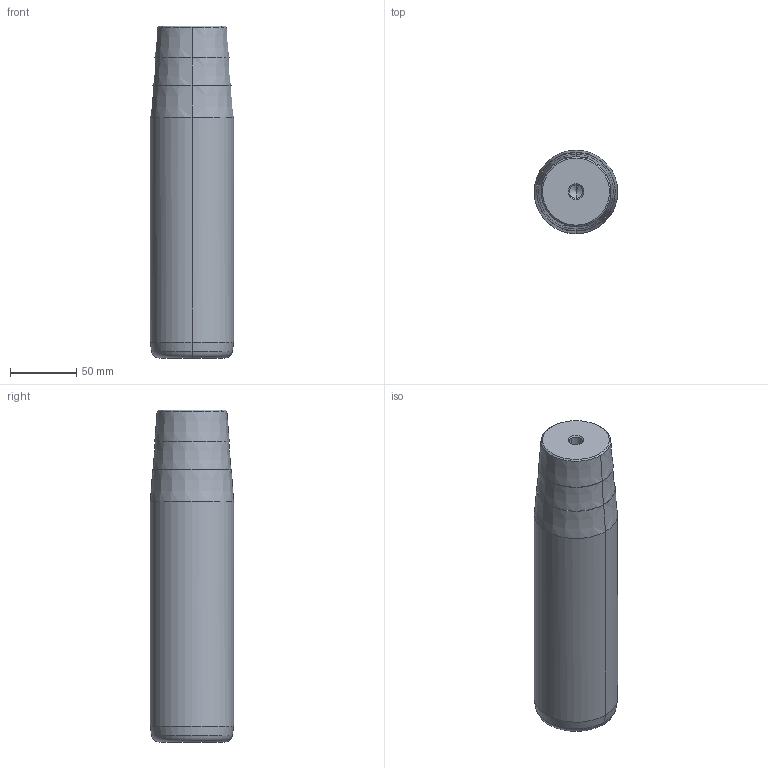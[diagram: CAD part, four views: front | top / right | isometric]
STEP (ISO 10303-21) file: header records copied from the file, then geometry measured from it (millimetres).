
FILE_DESCRIPTION(('CATIA V5 STEP Exchange'),'2;1');
FILE_NAME('C:\Users\Utente\Desktop\IO LAVORO\3D X SITO CF\X SITO\722\722-63x200x251.stp','2021-01-07T19:24:47+00:00',('none'),('none'),'CATIA Version 5 Release 20 GA (IN-10)','CATIA V5 STEP AP203','none');
FILE_SCHEMA(('CONFIG_CONTROL_DESIGN'));
Length unit declared in the file: millimetre
Products named in the file (1): 722-63x200x251
Bounding box: 63 x 63 x 251 mm (x, y, z)
Volume: 740639.5 mm3; surface area: 54926.4 mm2
Topology: 1 solids, 1 shells, 32 faces, 98 edges, 66 vertices
Faces by surface type: cone 22, cylinder 6, plane 2, torus 2
Entity records: 1172 total; most frequent: CARTESIAN_POINT 285, ORIENTED_EDGE 188, DIRECTION 148, EDGE_CURVE 94, AXIS2_PLACEMENT_3D 89, VERTEX_POINT 66, CIRCLE 56, EDGE_LOOP 34
